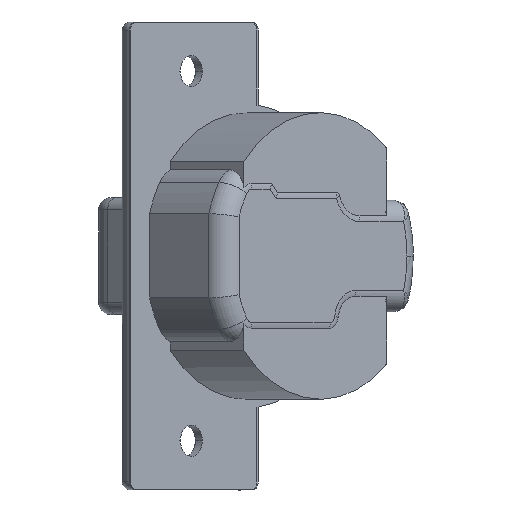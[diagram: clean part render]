
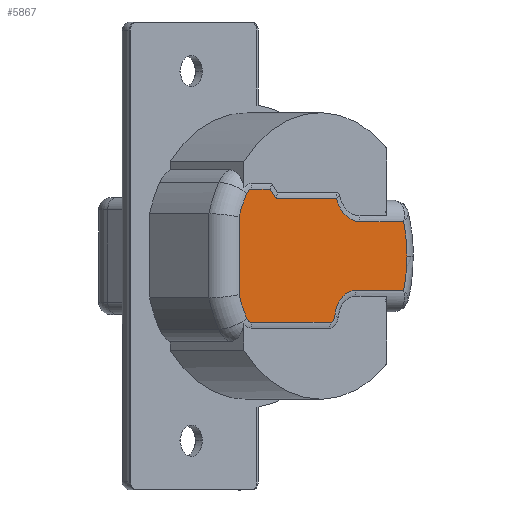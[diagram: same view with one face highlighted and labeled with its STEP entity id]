
A CAD part, top view. The second image highlights one B-rep face of the part: STEP entity #5867.
In plain terms, the highlighted planar face has unit normal (0.707, 0, 0.707) as drawn and (0, 0, 1) by its records, which use the part's own axes.
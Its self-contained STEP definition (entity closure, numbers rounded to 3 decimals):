
#45 = DIRECTION ( 'NONE',  ( 1., 0., 0. ) ) ;
#371 = VECTOR ( 'NONE', #9315, 1000. ) ;
#543 = LINE ( 'NONE', #5448, #6281 ) ;
#564 = ORIENTED_EDGE ( 'NONE', *, *, #9722, .T. ) ;
#595 = LINE ( 'NONE', #15123, #8064 ) ;
#1044 = CARTESIAN_POINT ( 'NONE',  ( -4.9, -8.1, 51.3 ) ) ;
#1070 = VERTEX_POINT ( 'NONE', #2603 ) ;
#1158 = VERTEX_POINT ( 'NONE', #4306 ) ;
#1177 = CIRCLE ( 'NONE', #2456, 0.8 ) ;
#1214 = AXIS2_PLACEMENT_3D ( 'NONE', #9818, #9744, #1285 ) ;
#1285 = DIRECTION ( 'NONE',  ( 1., 0., 0. ) ) ;
#1294 = ORIENTED_EDGE ( 'NONE', *, *, #6959, .T. ) ;
#1762 = AXIS2_PLACEMENT_3D ( 'NONE', #7905, #12842, #5885 ) ;
#1832 = VERTEX_POINT ( 'NONE', #1044 ) ;
#1878 = AXIS2_PLACEMENT_3D ( 'NONE', #9085, #9169, #6672 ) ;
#1905 = FACE_OUTER_BOUND ( 'NONE', #4058, .T. ) ;
#2456 = AXIS2_PLACEMENT_3D ( 'NONE', #7924, #15358, #4385 ) ;
#2472 = ORIENTED_EDGE ( 'NONE', *, *, #7442, .T. ) ;
#2528 = ORIENTED_EDGE ( 'NONE', *, *, #6501, .T. ) ;
#2603 = CARTESIAN_POINT ( 'NONE',  ( 8.36, 0., 51.3 ) ) ;
#2638 = AXIS2_PLACEMENT_3D ( 'NONE', #4868, #6158, #45 ) ;
#2804 = DIRECTION ( 'NONE',  ( 1., 0., 0. ) ) ;
#2830 = ORIENTED_EDGE ( 'NONE', *, *, #14630, .T. ) ;
#2849 = VERTEX_POINT ( 'NONE', #4888 ) ;
#3095 = ORIENTED_EDGE ( 'NONE', *, *, #12307, .T. ) ;
#3101 = CARTESIAN_POINT ( 'NONE',  ( -20.59, 4.721, 51.3 ) ) ;
#3118 = CARTESIAN_POINT ( 'NONE',  ( -6.5, 0., 51.3 ) ) ;
#3138 = DIRECTION ( 'NONE',  ( 1., 0., 0. ) ) ;
#3515 = CARTESIAN_POINT ( 'NONE',  ( -4.9, -8.1, 51.3 ) ) ;
#3735 = CARTESIAN_POINT ( 'NONE',  ( -15.985, 8.909, 51.3 ) ) ;
#3792 = CIRCLE ( 'NONE', #12809, 14.86 ) ;
#3803 = LINE ( 'NONE', #6294, #5076 ) ;
#3870 = VERTEX_POINT ( 'NONE', #6382 ) ;
#3917 = ORIENTED_EDGE ( 'NONE', *, *, #13567, .T. ) ;
#4058 = EDGE_LOOP ( 'NONE', ( #8171, #3095, #564, #14392, #1294, #2472, #5470, #12083, #3917, #5345, #8199, #2528, #13661, #13221, #11270, #2830 ) ) ;
#4306 = CARTESIAN_POINT ( 'NONE',  ( -18.403, -8.1, 51.3 ) ) ;
#4372 = VERTEX_POINT ( 'NONE', #10683 ) ;
#4385 = DIRECTION ( 'NONE',  ( 1., 0., 0. ) ) ;
#4868 = CARTESIAN_POINT ( 'NONE',  ( -6.5, 0., 51.3 ) ) ;
#4888 = CARTESIAN_POINT ( 'NONE',  ( -15.217, 8.1, 51.3 ) ) ;
#4997 = CARTESIAN_POINT ( 'NONE',  ( -18.403, 7.1, 51.3 ) ) ;
#5076 = VECTOR ( 'NONE', #14686, 1000. ) ;
#5309 = CARTESIAN_POINT ( 'NONE',  ( -20.59, -5.128, 51.3 ) ) ;
#5345 = ORIENTED_EDGE ( 'NONE', *, *, #11410, .T. ) ;
#5448 = CARTESIAN_POINT ( 'NONE',  ( 0.184, 4.2, 51.3 ) ) ;
#5470 = ORIENTED_EDGE ( 'NONE', *, *, #10013, .T. ) ;
#5867 = ADVANCED_FACE ( 'NONE', ( #1905 ), #10370, .T. ) ;
#5885 = DIRECTION ( 'NONE',  ( 1., 0., 0. ) ) ;
#6004 = LINE ( 'NONE', #3515, #14023 ) ;
#6158 = DIRECTION ( 'NONE',  ( 0., 0., 1. ) ) ;
#6281 = VECTOR ( 'NONE', #10360, 1000. ) ;
#6294 = CARTESIAN_POINT ( 'NONE',  ( 8.625, -4.2, 51.3 ) ) ;
#6295 = VECTOR ( 'NONE', #8633, 1000. ) ;
#6323 = CIRCLE ( 'NONE', #13272, 1. ) ;
#6382 = CARTESIAN_POINT ( 'NONE',  ( 0.184, 4.2, 51.3 ) ) ;
#6421 = VERTEX_POINT ( 'NONE', #6879 ) ;
#6501 = EDGE_CURVE ( 'NONE', #15461, #10278, #13978, .T. ) ;
#6512 = CARTESIAN_POINT ( 'NONE',  ( -18.403, 8.1, 51.3 ) ) ;
#6672 = DIRECTION ( 'NONE',  ( 1., 0., 0. ) ) ;
#6879 = CARTESIAN_POINT ( 'NONE',  ( -3.801, 7., 51.3 ) ) ;
#6944 = VERTEX_POINT ( 'NONE', #7796 ) ;
#6959 = EDGE_CURVE ( 'NONE', #1070, #9735, #8829, .T. ) ;
#7043 = EDGE_CURVE ( 'NONE', #10278, #4372, #11607, .T. ) ;
#7125 = DIRECTION ( 'NONE',  ( 1., 0., 0. ) ) ;
#7353 = VERTEX_POINT ( 'NONE', #8996 ) ;
#7409 = DIRECTION ( 'NONE',  ( 1., 0., 0. ) ) ;
#7442 = EDGE_CURVE ( 'NONE', #9735, #3870, #543, .T. ) ;
#7647 = EDGE_CURVE ( 'NONE', #4372, #6944, #12467, .T. ) ;
#7710 = EDGE_CURVE ( 'NONE', #6421, #10430, #595, .T. ) ;
#7721 = DIRECTION ( 'NONE',  ( 0., 0., 1. ) ) ;
#7764 = DIRECTION ( 'NONE',  ( -1., 0., 0. ) ) ;
#7796 = CARTESIAN_POINT ( 'NONE',  ( -19.262, -7.612, 51.3 ) ) ;
#7823 = AXIS2_PLACEMENT_3D ( 'NONE', #3118, #9006, #2804 ) ;
#7905 = CARTESIAN_POINT ( 'NONE',  ( -0.529, -7.8, 51.3 ) ) ;
#7924 = CARTESIAN_POINT ( 'NONE',  ( -4.9, -7.3, 51.3 ) ) ;
#7952 = DIRECTION ( 'NONE',  ( 1., 0., 0. ) ) ;
#8064 = VECTOR ( 'NONE', #7764, 1000. ) ;
#8163 = CARTESIAN_POINT ( 'NONE',  ( -14.172, 7., 51.3 ) ) ;
#8171 = ORIENTED_EDGE ( 'NONE', *, *, #8753, .T. ) ;
#8199 = ORIENTED_EDGE ( 'NONE', *, *, #14045, .T. ) ;
#8417 = VERTEX_POINT ( 'NONE', #6512 ) ;
#8429 = CIRCLE ( 'NONE', #1214, 1. ) ;
#8507 = CARTESIAN_POINT ( 'NONE',  ( -19.262, 7.612, 51.3 ) ) ;
#8633 = DIRECTION ( 'NONE',  ( -0.689, 0.725, 0. ) ) ;
#8698 = CIRCLE ( 'NONE', #1762, 3.6 ) ;
#8753 = EDGE_CURVE ( 'NONE', #1832, #9668, #1177, .T. ) ;
#8829 = CIRCLE ( 'NONE', #1878, 14.86 ) ;
#8996 = CARTESIAN_POINT ( 'NONE',  ( 7.754, -4.2, 51.3 ) ) ;
#9006 = DIRECTION ( 'NONE',  ( 0., 0., 1. ) ) ;
#9085 = CARTESIAN_POINT ( 'NONE',  ( -6.5, 0., 51.3 ) ) ;
#9169 = DIRECTION ( 'NONE',  ( 0., 0., 1. ) ) ;
#9315 = DIRECTION ( 'NONE',  ( 0., -1., 0. ) ) ;
#9668 = VERTEX_POINT ( 'NONE', #10975 ) ;
#9722 = EDGE_CURVE ( 'NONE', #13561, #7353, #3803, .T. ) ;
#9735 = VERTEX_POINT ( 'NONE', #13629 ) ;
#9744 = DIRECTION ( 'NONE',  ( 0., 0., 1. ) ) ;
#9818 = CARTESIAN_POINT ( 'NONE',  ( -18.403, -7.1, 51.3 ) ) ;
#9863 = DIRECTION ( 'NONE',  ( 0., 0., 1. ) ) ;
#9946 = DIRECTION ( 'NONE',  ( 1., 0., 0. ) ) ;
#10013 = EDGE_CURVE ( 'NONE', #3870, #6421, #11258, .T. ) ;
#10232 = CARTESIAN_POINT ( 'NONE',  ( -6.5, 0., 51.3 ) ) ;
#10278 = VERTEX_POINT ( 'NONE', #3101 ) ;
#10360 = DIRECTION ( 'NONE',  ( -1., 0., 0. ) ) ;
#10370 = PLANE ( 'NONE',  #7823 ) ;
#10430 = VERTEX_POINT ( 'NONE', #8163 ) ;
#10683 = CARTESIAN_POINT ( 'NONE',  ( -20.59, -4.721, 51.3 ) ) ;
#10975 = CARTESIAN_POINT ( 'NONE',  ( -4.105, -7.391, 51.3 ) ) ;
#11072 = CARTESIAN_POINT ( 'NONE',  ( -0.529, -4.2, 51.3 ) ) ;
#11179 = AXIS2_PLACEMENT_3D ( 'NONE', #12377, #9863, #9946 ) ;
#11258 = CIRCLE ( 'NONE', #15637, 4.236 ) ;
#11270 = ORIENTED_EDGE ( 'NONE', *, *, #11302, .T. ) ;
#11288 = LINE ( 'NONE', #11363, #15382 ) ;
#11302 = EDGE_CURVE ( 'NONE', #6944, #1158, #8429, .T. ) ;
#11363 = CARTESIAN_POINT ( 'NONE',  ( -18.403, 8.1, 51.3 ) ) ;
#11410 = EDGE_CURVE ( 'NONE', #2849, #8417, #11288, .T. ) ;
#11509 = EDGE_CURVE ( 'NONE', #7353, #1070, #3792, .T. ) ;
#11607 = LINE ( 'NONE', #5309, #371 ) ;
#11927 = CARTESIAN_POINT ( 'NONE',  ( 0.184, 8.436, 51.3 ) ) ;
#12083 = ORIENTED_EDGE ( 'NONE', *, *, #7710, .T. ) ;
#12307 = EDGE_CURVE ( 'NONE', #9668, #13561, #8698, .T. ) ;
#12377 = CARTESIAN_POINT ( 'NONE',  ( -6.5, 0., 51.3 ) ) ;
#12467 = CIRCLE ( 'NONE', #11179, 14.86 ) ;
#12809 = AXIS2_PLACEMENT_3D ( 'NONE', #10232, #7721, #7952 ) ;
#12842 = DIRECTION ( 'NONE',  ( 0., 0., -1. ) ) ;
#13068 = DIRECTION ( 'NONE',  ( 0., 0., -1. ) ) ;
#13221 = ORIENTED_EDGE ( 'NONE', *, *, #7647, .T. ) ;
#13272 = AXIS2_PLACEMENT_3D ( 'NONE', #4997, #13786, #7409 ) ;
#13561 = VERTEX_POINT ( 'NONE', #11072 ) ;
#13567 = EDGE_CURVE ( 'NONE', #10430, #2849, #14779, .T. ) ;
#13629 = CARTESIAN_POINT ( 'NONE',  ( 7.754, 4.2, 51.3 ) ) ;
#13661 = ORIENTED_EDGE ( 'NONE', *, *, #7043, .T. ) ;
#13786 = DIRECTION ( 'NONE',  ( 0., 0., 1. ) ) ;
#13937 = DIRECTION ( 'NONE',  ( -1., 0., 0. ) ) ;
#13978 = CIRCLE ( 'NONE', #2638, 14.86 ) ;
#14023 = VECTOR ( 'NONE', #7125, 1000. ) ;
#14045 = EDGE_CURVE ( 'NONE', #8417, #15461, #6323, .T. ) ;
#14392 = ORIENTED_EDGE ( 'NONE', *, *, #11509, .T. ) ;
#14630 = EDGE_CURVE ( 'NONE', #1158, #1832, #6004, .T. ) ;
#14686 = DIRECTION ( 'NONE',  ( 1., 0., 0. ) ) ;
#14779 = LINE ( 'NONE', #3735, #6295 ) ;
#15123 = CARTESIAN_POINT ( 'NONE',  ( -13.055, 7., 51.3 ) ) ;
#15358 = DIRECTION ( 'NONE',  ( 0., 0., 1. ) ) ;
#15382 = VECTOR ( 'NONE', #13937, 1000. ) ;
#15461 = VERTEX_POINT ( 'NONE', #8507 ) ;
#15637 = AXIS2_PLACEMENT_3D ( 'NONE', #11927, #13068, #3138 ) ;
